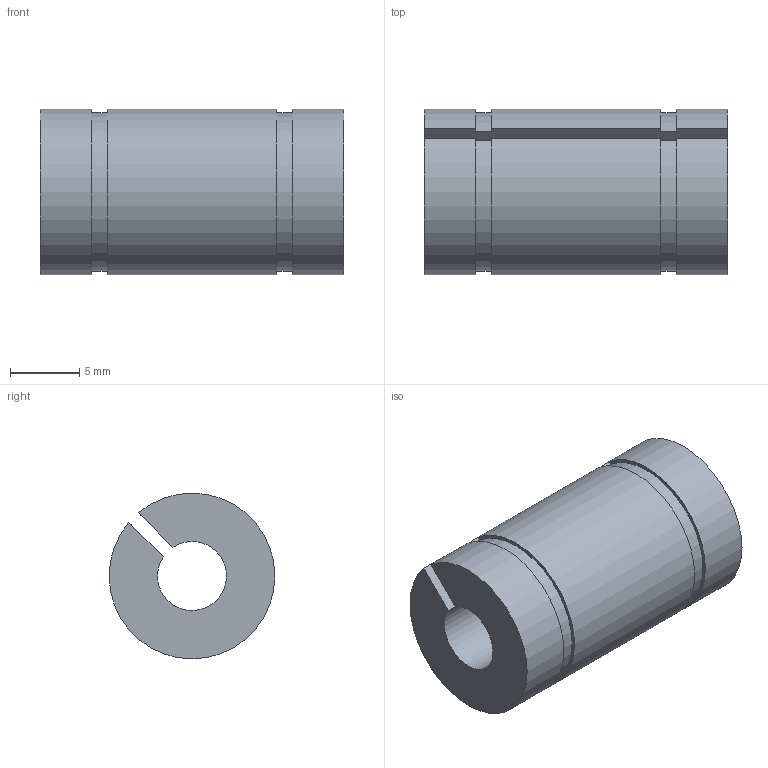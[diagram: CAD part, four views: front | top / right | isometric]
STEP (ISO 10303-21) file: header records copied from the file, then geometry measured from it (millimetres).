
FILE_DESCRIPTION( ( 'STEP AP203' ), '1' );
FILE_NAME( 'p:/temp/worker_98/temp/exporttempdir_4724_730_kzUDY/format_0/LME5UU-AJ.stp', '2020-04-29T03:20:32', ( 'License CC BY-ND 4.0' ), ( 'CADENAS' ), ' ', 'PARTsolutions', ' ' );
FILE_SCHEMA( ( 'CONFIG_CONTROL_DESIGN' ) );
Length unit declared in the file: millimetre
Products named in the file (1): _LME5UU-AJ
Bounding box: 22 x 12 x 12 mm (x, y, z)
Volume: 1959.2 mm3; surface area: 1497.3 mm2
Topology: 1 solids, 1 shells, 14 faces, 36 edges, 24 vertices
Faces by surface type: plane 8, cylinder 6
Entity records: 476 total; most frequent: DIRECTION 78, CARTESIAN_POINT 75, ORIENTED_EDGE 72, EDGE_CURVE 36, AXIS2_PLACEMENT_3D 27, VERTEX_POINT 24, LINE 24, VECTOR 24
